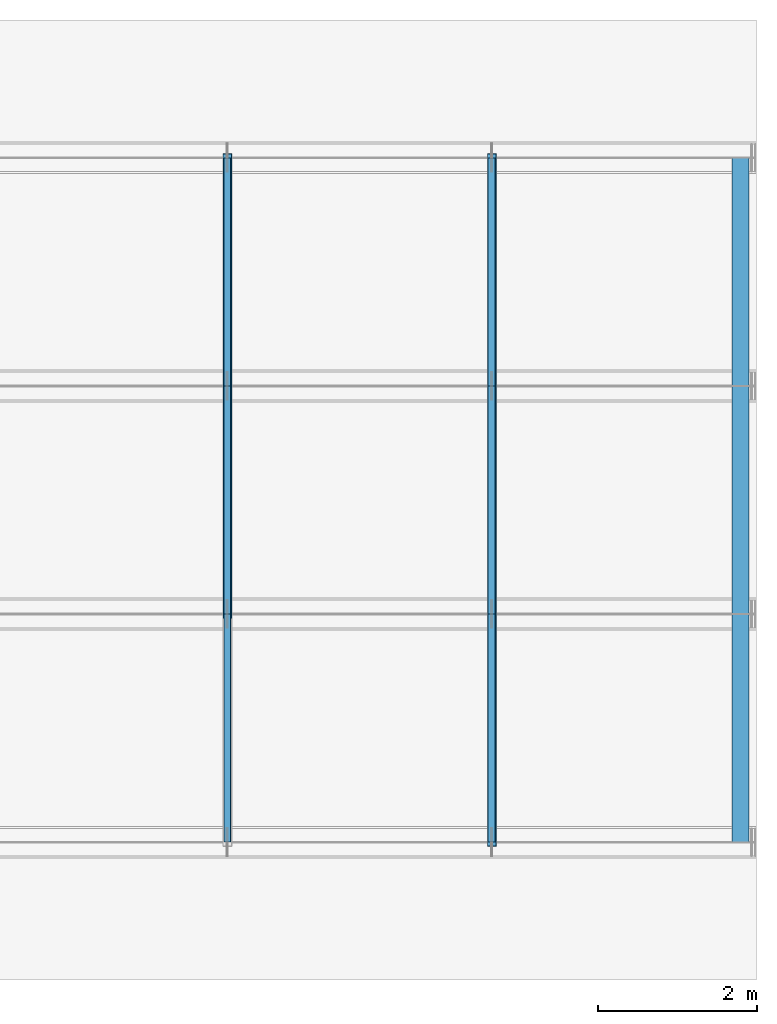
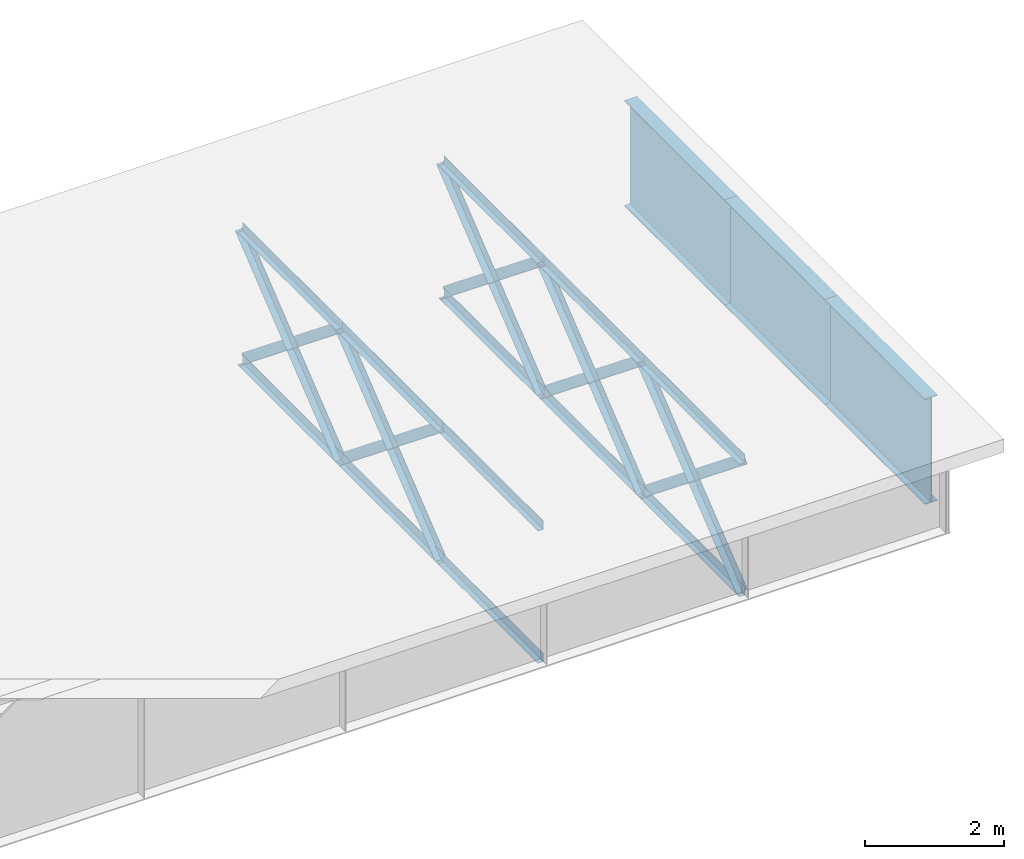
# One storey, part 2 of 15: 25 members.
"""IFC4 building model written with IfcOpenShell, lengths in metres."""

from ifc_helpers import new_model, si_unit, frame, origin, origin_with_axes, origin_2d_with_axis, place, context, subcontext, project, spatial, i_section, l_section, extrude, element, save


model = new_model("IFC4")

# Units and contexts
model_context = context("Model", 3, precision=1e-05, world=origin())
body_context = subcontext(model_context, "Body", "Model", "MODEL_VIEW")
ifc_project = project(units=[si_unit("LENGTHUNIT", "METRE"), si_unit("AREAUNIT", "SQUARE_METRE"), si_unit("VOLUMEUNIT", "CUBIC_METRE"), si_unit("PLANEANGLEUNIT", "RADIAN")], contexts=[model_context])

# Site, building, storey
site_placement = place(None, origin_with_axes())
site = spatial("IfcSite", under=ifc_project, at=site_placement, Name="Default Site")
building_placement = place(site_placement, origin_with_axes())
building = spatial("IfcBuilding", under=site, at=building_placement, Name="Bridge Structure")
storey_placement = place(building_placement, origin_with_axes())
storey = spatial("IfcBuildingStorey", under=building, at=storey_placement, Name="Superstructure")

# Members
for number, where, z_axis, x_axis, name in (
    (1, (33.333333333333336, -4.3125, -1.157), (0.0, 1.0, 0.0), (-1.0, 0.0, 0.0), "Bottom Chord"),
    (2, (33.333333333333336, -4.3125, 1.157), (0.0, 1.0, 0.0), (-1.0, 0.0, 0.0), "Top Chord"),
):
    element("IfcMember", number, at=place(storey_placement, frame(where, z_axis=z_axis, x_axis=x_axis)), inside=storey, Name=name, context=body_context, shape_type="SweptSolid", body=[
        extrude(l_section(Depth=0.15, Width=0.092, Thickness=0.008, at=origin_2d_with_axis()), origin_with_axes(), (0.0, 0.0, 1.0), 2.875),
    ])
for number, where, z_axis, x_axis, name in (
    (3, (33.333333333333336, -1.4375, 1.157), (0.0, 0.7790149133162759, -0.6270053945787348), (-1.0, 0.0, 0.0), "Diagonal Brace"),
    (4, (33.333333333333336, -1.4375, -1.157), (0.0, 0.7790149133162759, 0.6270053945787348), (-1.0, 0.0, 0.0), "Diagonal Brace"),
):
    element("IfcMember", number, at=place(storey_placement, frame(where, z_axis=z_axis, x_axis=x_axis)), inside=storey, Name=name, context=body_context, shape_type="SweptSolid", body=[
        extrude(l_section(Depth=0.17300000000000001, Width=0.115, Thickness=0.008, at=origin_2d_with_axis()), origin_with_axes(), (0.0, 0.0, 1.0), 3.6905583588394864),
    ])
for number, where, z_axis, x_axis, name in (
    (5, (33.333333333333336, -1.4375, -1.157), (0.0, 1.0, 0.0), (-1.0, 0.0, 0.0), "Bottom Chord"),
    (6, (33.333333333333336, -1.4375, 1.157), (0.0, 1.0, 0.0), (-1.0, 0.0, 0.0), "Top Chord"),
):
    element("IfcMember", number, at=place(storey_placement, frame(where, z_axis=z_axis, x_axis=x_axis)), inside=storey, Name=name, context=body_context, shape_type="SweptSolid", body=[
        extrude(l_section(Depth=0.15, Width=0.092, Thickness=0.008, at=origin_2d_with_axis()), origin_with_axes(), (0.0, 0.0, 1.0), 2.875),
    ])
for number, where, z_axis, x_axis, name in (
    (7, (33.333333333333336, 1.4375, 1.157), (0.0, 0.7790149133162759, -0.6270053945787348), (-1.0, 0.0, 0.0), "Diagonal Brace"),
    (8, (33.333333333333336, 1.4375, -1.157), (0.0, 0.7790149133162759, 0.6270053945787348), (-1.0, 0.0, 0.0), "Diagonal Brace"),
):
    element("IfcMember", number, at=place(storey_placement, frame(where, z_axis=z_axis, x_axis=x_axis)), inside=storey, Name=name, context=body_context, shape_type="SweptSolid", body=[
        extrude(l_section(Depth=0.17300000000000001, Width=0.115, Thickness=0.008, at=origin_2d_with_axis()), origin_with_axes(), (0.0, 0.0, 1.0), 3.6905583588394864),
    ])
for number, where, z_axis, x_axis, name in (
    (9, (33.333333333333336, 1.4375, -1.157), (0.0, 1.0, 0.0), (-1.0, 0.0, 0.0), "Bottom Chord"),
    (10, (33.333333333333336, 1.4375, 1.157), (0.0, 1.0, 0.0), (-1.0, 0.0, 0.0), "Top Chord"),
):
    element("IfcMember", number, at=place(storey_placement, frame(where, z_axis=z_axis, x_axis=x_axis)), inside=storey, Name=name, context=body_context, shape_type="SweptSolid", body=[
        extrude(l_section(Depth=0.15, Width=0.092, Thickness=0.008, at=origin_2d_with_axis()), origin_with_axes(), (0.0, 0.0, 1.0), 2.875),
    ])
for number, where, z_axis, x_axis, name in (
    (11, (36.66666666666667, -4.3125, 1.157), (0.0, 0.7790149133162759, -0.6270053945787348), (-1.0, 0.0, 0.0), "Diagonal Brace"),
    (12, (36.66666666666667, -4.3125, -1.157), (0.0, 0.7790149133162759, 0.6270053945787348), (-1.0, 0.0, 0.0), "Diagonal Brace"),
):
    element("IfcMember", number, at=place(storey_placement, frame(where, z_axis=z_axis, x_axis=x_axis)), inside=storey, Name=name, context=body_context, shape_type="SweptSolid", body=[
        extrude(l_section(Depth=0.17300000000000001, Width=0.115, Thickness=0.008, at=origin_2d_with_axis()), origin_with_axes(), (0.0, 0.0, 1.0), 3.6905583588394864),
    ])
for number, where, z_axis, x_axis, name in (
    (13, (36.66666666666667, -4.3125, -1.157), (0.0, 1.0, 0.0), (-1.0, 0.0, 0.0), "Bottom Chord"),
    (14, (36.66666666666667, -4.3125, 1.157), (0.0, 1.0, 0.0), (-1.0, 0.0, 0.0), "Top Chord"),
):
    element("IfcMember", number, at=place(storey_placement, frame(where, z_axis=z_axis, x_axis=x_axis)), inside=storey, Name=name, context=body_context, shape_type="SweptSolid", body=[
        extrude(l_section(Depth=0.15, Width=0.092, Thickness=0.008, at=origin_2d_with_axis()), origin_with_axes(), (0.0, 0.0, 1.0), 2.875),
    ])
for number, where, z_axis, x_axis, name in (
    (15, (36.66666666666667, -1.4375, 1.157), (0.0, 0.7790149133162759, -0.6270053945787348), (-1.0, 0.0, 0.0), "Diagonal Brace"),
    (16, (36.66666666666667, -1.4375, -1.157), (0.0, 0.7790149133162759, 0.6270053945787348), (-1.0, 0.0, 0.0), "Diagonal Brace"),
):
    element("IfcMember", number, at=place(storey_placement, frame(where, z_axis=z_axis, x_axis=x_axis)), inside=storey, Name=name, context=body_context, shape_type="SweptSolid", body=[
        extrude(l_section(Depth=0.17300000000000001, Width=0.115, Thickness=0.008, at=origin_2d_with_axis()), origin_with_axes(), (0.0, 0.0, 1.0), 3.6905583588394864),
    ])
for number, where, z_axis, x_axis, name in (
    (17, (36.66666666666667, -1.4375, -1.157), (0.0, 1.0, 0.0), (-1.0, 0.0, 0.0), "Bottom Chord"),
    (18, (36.66666666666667, -1.4375, 1.157), (0.0, 1.0, 0.0), (-1.0, 0.0, 0.0), "Top Chord"),
):
    element("IfcMember", number, at=place(storey_placement, frame(where, z_axis=z_axis, x_axis=x_axis)), inside=storey, Name=name, context=body_context, shape_type="SweptSolid", body=[
        extrude(l_section(Depth=0.15, Width=0.092, Thickness=0.008, at=origin_2d_with_axis()), origin_with_axes(), (0.0, 0.0, 1.0), 2.875),
    ])
for number, where, z_axis, x_axis, name in (
    (19, (36.66666666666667, 1.4375, 1.157), (0.0, 0.7790149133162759, -0.6270053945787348), (-1.0, 0.0, 0.0), "Diagonal Brace"),
    (20, (36.66666666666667, 1.4375, -1.157), (0.0, 0.7790149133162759, 0.6270053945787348), (-1.0, 0.0, 0.0), "Diagonal Brace"),
):
    element("IfcMember", number, at=place(storey_placement, frame(where, z_axis=z_axis, x_axis=x_axis)), inside=storey, Name=name, context=body_context, shape_type="SweptSolid", body=[
        extrude(l_section(Depth=0.17300000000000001, Width=0.115, Thickness=0.008, at=origin_2d_with_axis()), origin_with_axes(), (0.0, 0.0, 1.0), 3.6905583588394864),
    ])
for number, where, z_axis, x_axis, name in (
    (21, (36.66666666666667, 1.4375, -1.157), (0.0, 1.0, 0.0), (-1.0, 0.0, 0.0), "Bottom Chord"),
    (22, (36.66666666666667, 1.4375, 1.157), (0.0, 1.0, 0.0), (-1.0, 0.0, 0.0), "Top Chord"),
):
    element("IfcMember", number, at=place(storey_placement, frame(where, z_axis=z_axis, x_axis=x_axis)), inside=storey, Name=name, context=body_context, shape_type="SweptSolid", body=[
        extrude(l_section(Depth=0.15, Width=0.092, Thickness=0.008, at=origin_2d_with_axis()), origin_with_axes(), (0.0, 0.0, 1.0), 2.875),
    ])
for number, where, z_axis, x_axis, name in (
    (23, (39.800000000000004, -4.3125, 0.2315), (0.0, 1.0, 0.0), (-1.0, 0.0, 0.0), "End Diaphragm"),
    (24, (39.800000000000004, -1.4375, 0.2315), (0.0, 1.0, 0.0), (-1.0, 0.0, 0.0), "End Diaphragm"),
    (25, (39.800000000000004, 1.4375, 0.2315), (0.0, 1.0, 0.0), (-1.0, 0.0, 0.0), "End Diaphragm"),
):
    element("IfcMember", number, at=place(storey_placement, frame(where, z_axis=z_axis, x_axis=x_axis)), inside=storey, Name=name, context=body_context, shape_type="SweptSolid", body=[
        extrude(i_section(OverallWidth=0.21, OverallDepth=1.851, WebThickness=0.016, FlangeThickness=0.012, at=origin_2d_with_axis()), origin_with_axes(), (0.0, 0.0, 1.0), 2.875),
    ])

save(model, "model.ifc")
